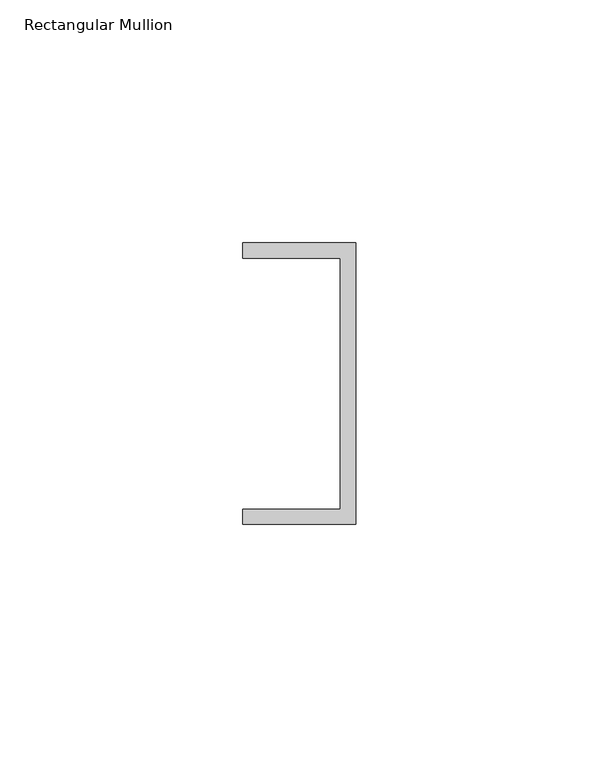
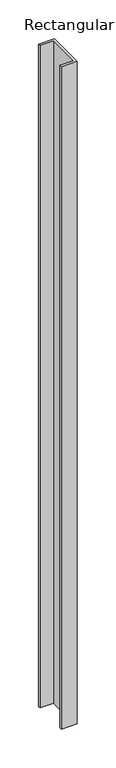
"""IFC4 building model written with IfcOpenShell, lengths in millimetres: member geometry, Rectangular Mullion : Frame-Teknion-Altos-Base_Channel."""

from ifc_helpers import new_model, si_unit, frame, origin, place, context, project, spatial, polyline, outline, extrude, source, transform, mapped, element, save


def rectangular_mullion_3afcdd40(model_context):
    return source(origin(), model_context, "Body", "SweptSolid", [
        extrude(outline(polyline([(0.0, 29.0214844), (0.0, -29.0214844), (-23.3164063, -29.0214844), (-23.3164063, -25.8464844), (-3.175, -25.8464844), (-3.175, 25.8464844), (-23.3164063, 25.8464844), (-23.3164063, 29.0214844), (0.0, 29.0214844)])), frame((0.0, 0.0, -1038.8203125), z_axis=(0.0, 0.0, 1.0), x_axis=(1.0, 0.0, 0.0)), (0.0, 0.0, 1.0), 1038.8203125),
    ])


if __name__ == "__main__":
    model = new_model("IFC4")
    model_context = context("Model", 3, world=origin())
    ifc_project = project(units=[si_unit("LENGTHUNIT", "METRE", prefix="MILLI")], contexts=[model_context])
    site = spatial("IfcSite", under=ifc_project)
    building = spatial("IfcBuilding", under=site)
    placement = place(None, origin())
    rectangular_mullion_shape = rectangular_mullion_3afcdd40(model_context)
    element("IfcMember", 1, ObjectType="Rectangular Mullion : Frame-Teknion-Altos-Base_Channel", at=placement, inside=building, context=model_context, shape_type="MappedRepresentation", body=[
        mapped(rectangular_mullion_shape, transform((0.0, 0.0, 0.0), x_axis=(1.0, 0.0, 0.0), y_axis=(0.0, 1.0, 0.0), z_axis=(0.0, 0.0, 1.0))),
    ])
    save(model, "model.ifc")
